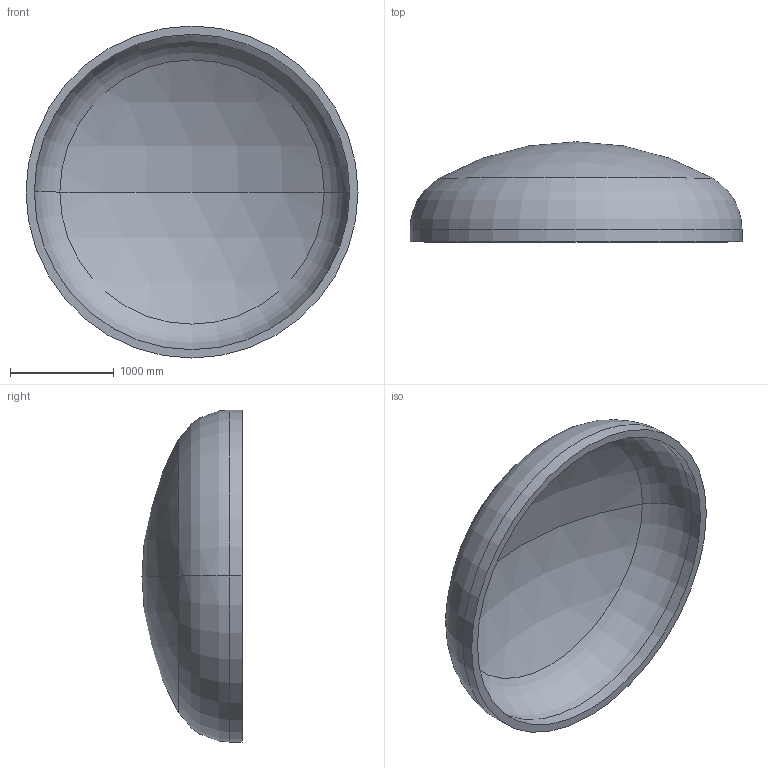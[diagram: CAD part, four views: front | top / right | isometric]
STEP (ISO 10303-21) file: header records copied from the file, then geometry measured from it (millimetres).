
FILE_DESCRIPTION (( 'STEP AP203' ), '1' );
FILE_NAME ('DIN 28013 Korbbogenform_-_Boden DIN 28013 - 3200 x 120 - I - s=80.step', '2016-07-01T18:52:05', ( '' ), ( '' ), 'SwSTEP 2.0', 'SolidWorks 2013', '' );
FILE_SCHEMA (( 'CONFIG_CONTROL_DESIGN' ));
Length unit declared in the file: millimetre
Products named in the file (1): DIN 28013 Korbbogenform_-_Boden DIN 28013 - 3200 x 120 - I - s=80
Bounding box: 3200 x 964.45 x 3200 mm (x, y, z)
Volume: 955470102.9 mm3; surface area: 24684290.2 mm2
Topology: 1 solids, 1 shells, 13 faces, 24 edges, 14 vertices
Faces by surface type: torus 4, cylinder 4, sphere 4, plane 1
Entity records: 407 total; most frequent: DIRECTION 72, CARTESIAN_POINT 52, ORIENTED_EDGE 48, AXIS2_PLACEMENT_3D 34, EDGE_CURVE 24, CIRCLE 20, EDGE_LOOP 14, VERTEX_POINT 14
